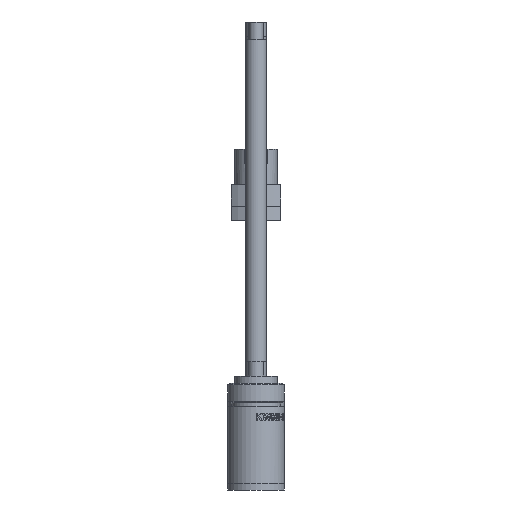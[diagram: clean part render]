
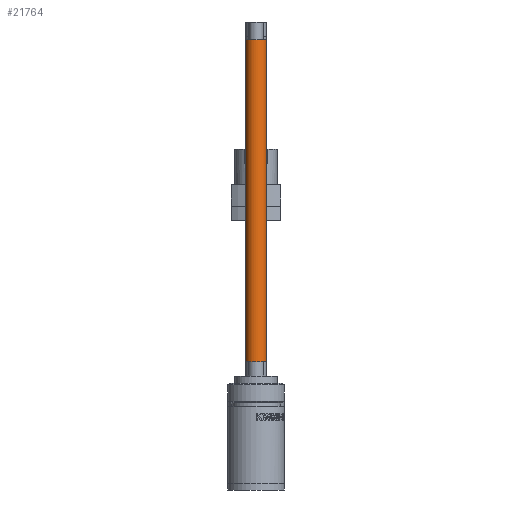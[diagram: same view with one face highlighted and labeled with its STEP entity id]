
A CAD part, left-side view. The second image highlights one B-rep face of the part: STEP entity #21764.
In plain terms, the highlighted cylindrical face has radius 1.5 mm (diameter 3 mm), a full revolution.
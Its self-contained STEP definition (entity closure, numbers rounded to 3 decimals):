
#21764=ADVANCED_FACE('',(#23579,#23580),#22250,.T.);
#22250=CYLINDRICAL_SURFACE('',#53005,1.5);
#23579=FACE_BOUND('',#26729,.T.);
#23580=FACE_BOUND('',#26730,.T.);
#26729=EDGE_LOOP('',(#37585));
#26730=EDGE_LOOP('',(#37586));
#37585=ORIENTED_EDGE('',*,*,#46835,.F.);
#37586=ORIENTED_EDGE('',*,*,#46834,.T.);
#41406=VERTEX_POINT('',#108737);
#41407=VERTEX_POINT('',#108740);
#46834=EDGE_CURVE('',#41406,#41406,#48145,.T.);
#46835=EDGE_CURVE('',#41407,#41407,#48146,.T.);
#48145=CIRCLE('',#53002,1.5);
#48146=CIRCLE('',#53004,1.5);
#53002=AXIS2_PLACEMENT_3D('',#108736,#60525,#60526);
#53004=AXIS2_PLACEMENT_3D('',#108739,#60529,#60530);
#53005=AXIS2_PLACEMENT_3D('',#108741,#60531,#60532);
#60525=DIRECTION('',(0.,0.,-1.));
#60526=DIRECTION('',(-1.,0.,0.));
#60529=DIRECTION('',(0.,0.,-1.));
#60530=DIRECTION('',(-1.,0.,0.));
#60531=DIRECTION('',(0.,0.,-1.));
#60532=DIRECTION('',(-1.,0.,0.));
#108736=CARTESIAN_POINT('',(-108.,0.,63.6));
#108737=CARTESIAN_POINT('',(-109.5,0.,63.6));
#108739=CARTESIAN_POINT('',(-108.,0.,18.1));
#108740=CARTESIAN_POINT('',(-109.5,0.,18.1));
#108741=CARTESIAN_POINT('',(-108.,0.,15.1));
